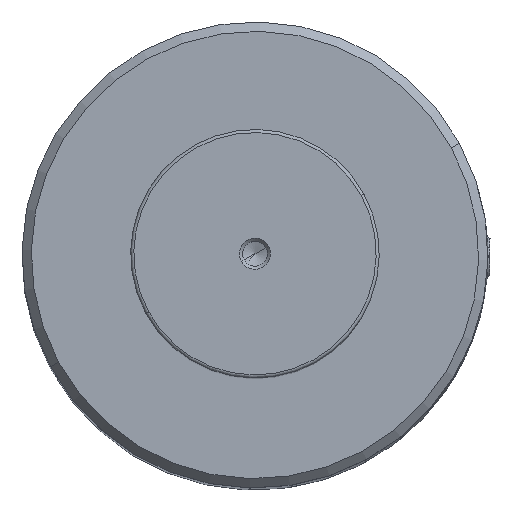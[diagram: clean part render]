
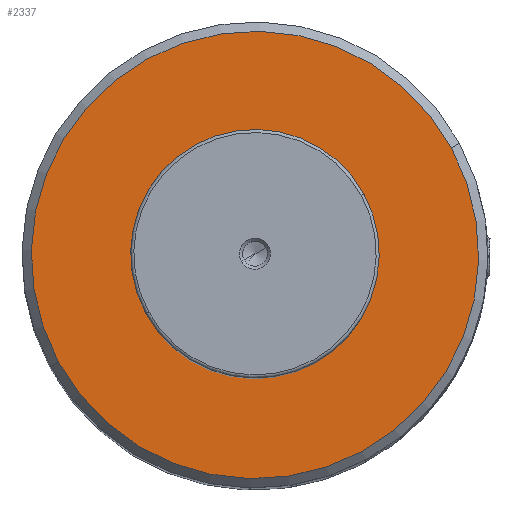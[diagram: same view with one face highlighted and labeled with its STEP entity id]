
A CAD part, top view. The second image highlights one B-rep face of the part: STEP entity #2337.
In plain terms, the highlighted planar face has unit normal (0, 0, 1).
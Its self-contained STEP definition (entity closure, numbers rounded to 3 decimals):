
#950=CARTESIAN_POINT('Axis2P3D Location',(0.,0.,377.)) ;
#954=CARTESIAN_POINT('Vertex',(3.51,-1.918,377.)) ;
#956=CARTESIAN_POINT('Vertex',(-3.51,1.918,377.)) ;
#1018=CARTESIAN_POINT('Axis2P3D Location',(0.,0.,377.)) ;
#2310=CARTESIAN_POINT('Axis2P3D Location',(75.,0.,377.)) ;
#2315=CARTESIAN_POINT('Axis2P3D Location',(0.,0.,377.)) ;
#2319=CARTESIAN_POINT('Vertex',(-63.186,-34.519,377.)) ;
#2321=CARTESIAN_POINT('Vertex',(63.186,34.519,377.)) ;
#2324=CARTESIAN_POINT('Axis2P3D Location',(0.,0.,377.)) ;
#951=DIRECTION('Axis2P3D Direction',(0.,0.,-1.)) ;
#1019=DIRECTION('Axis2P3D Direction',(0.,0.,-1.)) ;
#2311=DIRECTION('Axis2P3D Direction',(0.,0.,1.)) ;
#2312=DIRECTION('Axis2P3D XDirection',(1.,0.,0.)) ;
#2316=DIRECTION('Axis2P3D Direction',(0.,0.,1.)) ;
#2325=DIRECTION('Axis2P3D Direction',(0.,0.,1.)) ;
#952=AXIS2_PLACEMENT_3D('Circle Axis2P3D',#950,#951,$) ;
#1020=AXIS2_PLACEMENT_3D('Circle Axis2P3D',#1018,#1019,$) ;
#2313=AXIS2_PLACEMENT_3D('Plane Axis2P3D',#2310,#2311,#2312) ;
#2317=AXIS2_PLACEMENT_3D('Circle Axis2P3D',#2315,#2316,$) ;
#2326=AXIS2_PLACEMENT_3D('Circle Axis2P3D',#2324,#2325,$) ;
#2330=ORIENTED_EDGE('',*,*,#2323,.T.) ;
#2331=ORIENTED_EDGE('',*,*,#2328,.T.) ;
#2334=ORIENTED_EDGE('',*,*,#1022,.F.) ;
#2335=ORIENTED_EDGE('',*,*,#958,.F.) ;
#2336=FACE_BOUND('',#2333,.T.) ;
#2337=ADVANCED_FACE('',(#2332,#2336),#2314,.T.) ;
#953=CIRCLE('generated circle',#952,4.) ;
#1021=CIRCLE('generated circle',#1020,4.) ;
#2318=CIRCLE('generated circle',#2317,72.) ;
#2327=CIRCLE('generated circle',#2326,72.) ;
#958=EDGE_CURVE('',#955,#957,#953,.F.) ;
#1022=EDGE_CURVE('',#957,#955,#1021,.F.) ;
#2323=EDGE_CURVE('',#2320,#2322,#2318,.T.) ;
#2328=EDGE_CURVE('',#2322,#2320,#2327,.T.) ;
#2329=EDGE_LOOP('',(#2330,#2331)) ;
#2333=EDGE_LOOP('',(#2334,#2335)) ;
#2332=FACE_OUTER_BOUND('',#2329,.T.) ;
#2314=PLANE('Plane',#2313) ;
#955=VERTEX_POINT('',#954) ;
#957=VERTEX_POINT('',#956) ;
#2320=VERTEX_POINT('',#2319) ;
#2322=VERTEX_POINT('',#2321) ;
